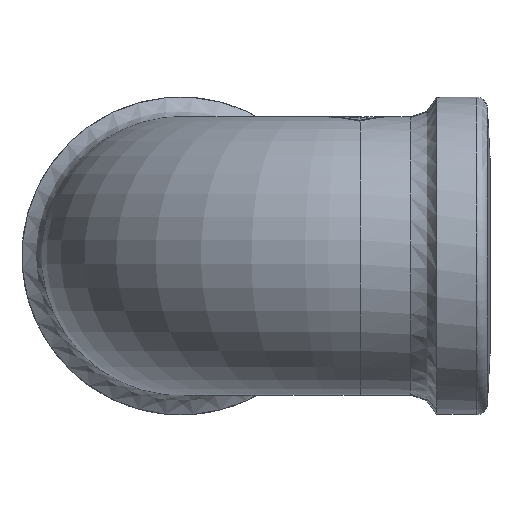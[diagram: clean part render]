
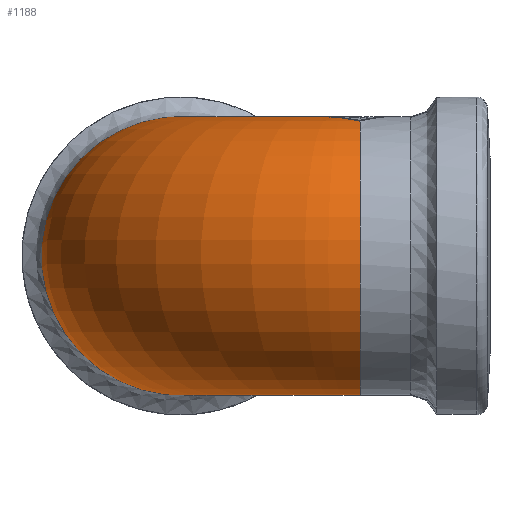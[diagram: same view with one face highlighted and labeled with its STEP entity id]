
A CAD part, left-side view. The second image highlights one B-rep face of the part: STEP entity #1188.
In plain terms, the highlighted toroidal (fillet/blend) face has major radius 16.5 mm and minor radius 12.8 mm.
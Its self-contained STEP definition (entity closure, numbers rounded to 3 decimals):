
#360=CARTESIAN_POINT('',(-3.223,11.973,12.388));
#361=VERTEX_POINT('',#360);
#362=CARTESIAN_POINT('',(-0.074,15.471,12.792));
#363=VERTEX_POINT('',#362);
#364=CARTESIAN_POINT('',(-3.223,11.973,12.388));
#365=CARTESIAN_POINT('',(-2.279,13.021,12.632));
#366=CARTESIAN_POINT('',(-1.303,14.106,12.743));
#367=CARTESIAN_POINT('',(-0.376,15.135,12.782));
#368=CARTESIAN_POINT('',(-0.275,15.248,12.786));
#369=CARTESIAN_POINT('',(-0.174,15.36,12.789));
#370=CARTESIAN_POINT('',(-0.074,15.471,12.792));
#371=B_SPLINE_CURVE_WITH_KNOTS('',3,(#364,#365,#366,#367,#368,#369,#370),.UNSPECIFIED.,.F.,.U.,(4,3,4),(10.867,11.262,11.306),.UNSPECIFIED.);
#372=EDGE_CURVE('',#361,#363,#371,.T.);
#395=CARTESIAN_POINT('',(3.075,11.973,12.425));
#396=VERTEX_POINT('',#395);
#397=CARTESIAN_POINT('',(-0.074,15.471,12.792));
#398=CARTESIAN_POINT('',(0.063,15.318,12.798));
#399=CARTESIAN_POINT('',(0.198,15.169,12.8));
#400=CARTESIAN_POINT('',(0.332,15.02,12.8));
#401=CARTESIAN_POINT('',(0.891,14.399,12.798));
#402=CARTESIAN_POINT('',(1.511,13.71,12.739));
#403=CARTESIAN_POINT('',(2.117,13.036,12.631));
#404=CARTESIAN_POINT('',(2.444,12.673,12.573));
#405=CARTESIAN_POINT('',(2.767,12.315,12.502));
#406=CARTESIAN_POINT('',(3.075,11.973,12.425));
#407=B_SPLINE_CURVE_WITH_KNOTS('',3,(#397,#398,#399,#400,#401,#402,#403,#404,#405,#406),.UNSPECIFIED.,.F.,.U.,(4,3,3,4),(11.806,11.866,12.116,12.25),.UNSPECIFIED.);
#408=EDGE_CURVE('',#363,#396,#407,.T.);
#426=CARTESIAN_POINT('',(-3.158,11.9,12.404));
#427=VERTEX_POINT('',#426);
#428=CARTESIAN_POINT('',(-3.158,11.9,12.404));
#429=CARTESIAN_POINT('',(-3.179,11.924,12.399));
#430=CARTESIAN_POINT('',(-3.201,11.948,12.393));
#431=CARTESIAN_POINT('',(-3.223,11.973,12.388));
#432=B_SPLINE_CURVE_WITH_KNOTS('',3,(#428,#429,#430,#431),.UNSPECIFIED.,.F.,.U.,(4,4),(1.235,1.244),.UNSPECIFIED.);
#433=EDGE_CURVE('',#427,#361,#432,.T.);
#461=CARTESIAN_POINT('',(3.009,11.9,12.441));
#462=VERTEX_POINT('',#461);
#470=CARTESIAN_POINT('',(3.075,11.973,12.425));
#471=CARTESIAN_POINT('',(3.053,11.948,12.431));
#472=CARTESIAN_POINT('',(3.031,11.924,12.436));
#473=CARTESIAN_POINT('',(3.009,11.9,12.441));
#474=B_SPLINE_CURVE_WITH_KNOTS('',3,(#470,#471,#472,#473),.UNSPECIFIED.,.F.,.U.,(4,4),(0.854,0.863),.UNSPECIFIED.);
#475=EDGE_CURVE('',#396,#462,#474,.T.);
#1089=CARTESIAN_POINT('',(12.159,11.9,-4.0));
#1090=VERTEX_POINT('',#1089);
#1091=CARTESIAN_POINT('',(0.0,11.9,0.0));
#1092=DIRECTION('',(0.0,-1.0,0.0));
#1093=DIRECTION('',(1.0,0.0,0.0));
#1094=AXIS2_PLACEMENT_3D('',#1091,#1092,#1093);
#1095=CIRCLE('',#1094,12.8);
#1096=EDGE_CURVE('',#427,#1090,#1095,.T.);
#1115=CARTESIAN_POINT('',(12.159,11.9,4.0));
#1116=VERTEX_POINT('',#1115);
#1123=CARTESIAN_POINT('',(0.0,11.9,0.0));
#1124=DIRECTION('',(0.0,-1.0,0.0));
#1125=DIRECTION('',(1.0,0.0,0.0));
#1126=AXIS2_PLACEMENT_3D('',#1123,#1124,#1125);
#1127=CIRCLE('',#1126,12.8);
#1128=EDGE_CURVE('',#1116,#462,#1127,.T.);
#1150=CARTESIAN_POINT('',(16.5,11.9,0.0));
#1151=DIRECTION('',(0.0,0.0,-1.0));
#1152=DIRECTION('',(-1.0,0.0,0.0));
#1153=AXIS2_PLACEMENT_3D('',#1150,#1151,#1152);
#1154=TOROIDAL_SURFACE('',#1153,16.5,12.8);
#1155=ORIENTED_EDGE('',*,*,#475,.T.);
#1156=ORIENTED_EDGE('',*,*,#1128,.F.);
#1157=CARTESIAN_POINT('',(16.5,16.241,4.0));
#1158=VERTEX_POINT('',#1157);
#1159=CARTESIAN_POINT('',(16.5,11.9,4.0));
#1160=DIRECTION('',(0.0,0.0,-1.0));
#1161=DIRECTION('',(-1.0,0.0,0.0));
#1162=AXIS2_PLACEMENT_3D('',#1159,#1160,#1161);
#1163=CIRCLE('',#1162,4.341);
#1164=EDGE_CURVE('',#1116,#1158,#1163,.T.);
#1165=ORIENTED_EDGE('',*,*,#1164,.T.);
#1166=CARTESIAN_POINT('',(16.5,16.241,-4.0));
#1167=VERTEX_POINT('',#1166);
#1168=CARTESIAN_POINT('',(16.5,28.4,0.0));
#1169=DIRECTION('',(-1.0,0.0,0.0));
#1170=DIRECTION('',(0.0,-1.0,0.0));
#1171=AXIS2_PLACEMENT_3D('',#1168,#1169,#1170);
#1172=CIRCLE('',#1171,12.8);
#1173=EDGE_CURVE('',#1158,#1167,#1172,.T.);
#1174=ORIENTED_EDGE('',*,*,#1173,.T.);
#1175=CARTESIAN_POINT('',(16.5,11.9,-4.0));
#1176=DIRECTION('',(0.0,0.0,1.0));
#1177=DIRECTION('',(-1.0,0.0,0.0));
#1178=AXIS2_PLACEMENT_3D('',#1175,#1176,#1177);
#1179=CIRCLE('',#1178,4.341);
#1180=EDGE_CURVE('',#1167,#1090,#1179,.T.);
#1181=ORIENTED_EDGE('',*,*,#1180,.T.);
#1182=ORIENTED_EDGE('',*,*,#1096,.F.);
#1183=ORIENTED_EDGE('',*,*,#433,.T.);
#1184=ORIENTED_EDGE('',*,*,#372,.T.);
#1185=ORIENTED_EDGE('',*,*,#408,.T.);
#1186=EDGE_LOOP('',(#1155,#1156,#1165,#1174,#1181,#1182,#1183,#1184,#1185));
#1187=FACE_OUTER_BOUND('',#1186,.T.);
#1188=ADVANCED_FACE('',(#1187),#1154,.T.);
